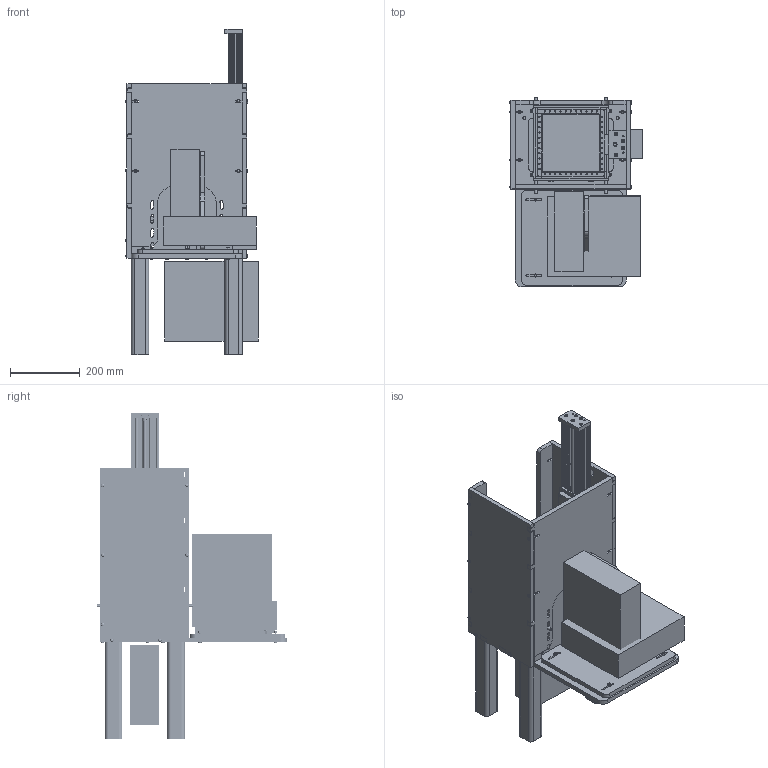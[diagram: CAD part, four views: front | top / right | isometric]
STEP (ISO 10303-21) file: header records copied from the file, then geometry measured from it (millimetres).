
FILE_DESCRIPTION(/* description */ (''),/* implementation_level */ '2;1');
FILE_NAME(/* name */ 'FULL_ASSM_11-6-2015.stp',/* time_stamp */ '2015-11-06T16:50:35-05:00',/* author */ (''),/* organization */ (''),/* preprocessor_version */ 'ST-DEVELOPER v11',/* originating_system */ 'SIEMENS PLM Software NX 7.5',/* authorisation */ '');
FILE_SCHEMA (('AUTOMOTIVE_DESIGN { 1 0 10303 214 1 1 1 1 }'));
Products named in the file (69): Frame_ProjectorMount_H; Frame_ProjectorMount; Acer_Projector; Leg_Under; Base_Under; Frame_Back_ProjUnder; Frame_ProjectorBase; Frame_Back; BasePlate; VatWall; Clamp_Top; Gasket_Strip; Clamp_Bottom; FEP_Film; Clear_VatBottom; FlexVat_Base; Mini Eccentric Spacer 6mm; Aluminum Spacer 6mm; Precision Shim 8 x 5 x 1; Ball Bearing 5 x 10 x 4.2; Xtreme Mini V Wheel; Frame_Front; Frame_LSide; Frame_RSide; M8_Rod_275mm; Vat_MountingPlate; Bed_to_ZAxis_Bracket; Aluminum Spacer 3mm; 8mm Acme Nut Block; C-Beam Gantry Plate; 8mm leadscrew 540mm; Flexible Coupling 0.25in x 8mm; Nema 23 Stepper Motor; Aluminum Spacer 40mm; Lock Collar 8mm; Shim Washer 8mm; Ball Bearing 8 x 16 x 5; C-Beam 40x80x500 Linear Rail; C-Beam End Mount; Low Profile Screw M5_M5 x 55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
Assembly tree (190 placements, depth 5):
  FULL_ASSM_stp
    Mirror_ASSM
      Mirror_Side  x2
      Mirror_Back
      Mirror_Holder
      Disc_magnet  x2
      Mirror_4InchSq
      Clamp  x4
      M6_Rod
      M5_30  x8
      M5_Nut  x8
      M3_10  x4
      M3_20  x4
      M3_Nut  x6
      M6_Nut  x2
    C-Beam Linear Actuator 500mm
      Low Profile Screw M5_M5 x 20  x10
      Nylon Insert Lock Nut M5  x2
      Low Profile Screw M5_M5 x 25  x4
      Low Profile Screw M5_M5 x 55  x2
      C-Beam End Mount  x2
      C-Beam 40x80x500 Linear Rail
      Ball Bearing 8 x 16 x 5  x2
      Shim Washer 8mm  x2
      Lock Collar 8mm  x2
      Aluminum Spacer 40mm  x2
      Nema 23 Stepper Motor
      Flexible Coupling 0.25in x 8mm
      8mm leadscrew 540mm
      C-Beam Gantry Plate
      8mm Acme Nut Block
      Xtreme Mini V Wheel_Straight  x2
        Xtreme Mini V Wheel
        Ball Bearing 5 x 10 x 4.2
        Precision Shim 8 x 5 x 1
        Nylon Insert Lock Nut M5
        Aluminum Spacer 6mm
      Xtreme Mini V Wheel_Eccentric  x2
        Xtreme Mini V Wheel
        Ball Bearing 5 x 10 x 4.2
        Precision Shim 8 x 5 x 1
        Nylon Insert Lock Nut M5
        Mini Eccentric Spacer 6mm
      Aluminum Spacer 3mm  x2
    Bed_ASSM
      Bed_to_ZAxis_Bracket
    Vat_ASSM
      Vat_MountingPlate
      M8_Rod_275mm  x2
      FlexVat_ASSM
        FlexVat_Base
        Clear_VatBottom
        FEP_Film
        Clamp_Bottom
        Gasket_Strip  x4
        Clamp_Top
        VatWall  x4
    Frame_ASSM
      Frame_RSide
      Frame_LSide
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Bounding box: 378.06 x 543.1 x 929.97 mm (x, y, z)
Volume: 31355459.7 mm3; surface area: 4110674.2 mm2
Topology: 191 solids, 191 shells, 3883 faces, 9956 edges, 6631 vertices
Faces by surface type: plane 2789, cylinder 880, cone 156, bspline 36, torus 22
Full cylindrical faces by diameter (mm): 3 x14, 3.4 x4, 3.5 x36, 4.2 x18, 4.25 x6, 4.6 x6, 4.712 x4, 5 x108, 5.1 x50, 5.2 x25, 5.25 x10, 5.3 x6, 6 x11, 6.2 x16, 6.35 x1, 6.6 x1, 7.11 x2, 7.2 x2, 8 x16, 8.255 x4, 8.5 x4, 8.64 x4, 9 x4, 9.2 x24, 10 x22, 10.2 x4, 11.176 x2, 11.8 x2, 12 x2, 12.7 x2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
Entity records: 88244 total; most frequent: CARTESIAN_POINT 16690, ORIENTED_EDGE 14324, DIRECTION 14034, EDGE_CURVE 7162, LINE 5756, VECTOR 5756, VERTEX_POINT 4914, AXIS2_PLACEMENT_3D 4139
